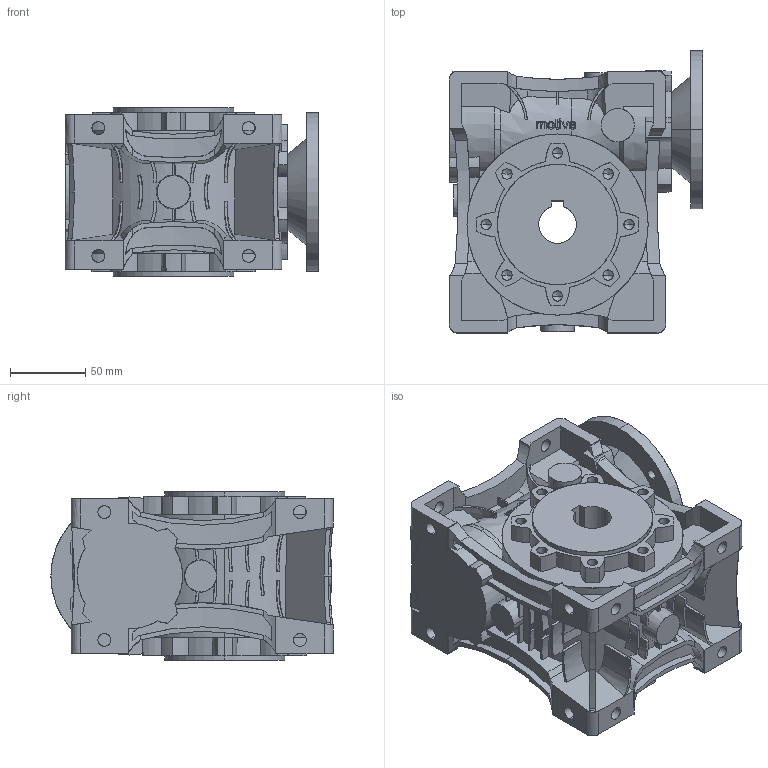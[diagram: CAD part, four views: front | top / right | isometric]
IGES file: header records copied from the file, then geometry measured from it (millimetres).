
Start section: SolidWorks IGES file using analytic representation for surfaces
Global section: file name: E:\Final Worm GBX For Motive\Worm GBX 3D\BOX063\BOX63PAM71B14.igs; native system: SolidWorks 2012; preprocessor: SolidWorks 2012; author: Tahir Momin; date: 130905.112830; units: millimetre
Bounding box: 168.5 x 187.5 x 112 mm (x, y, z)
Surface area: 230389.4 mm2 (no closed solid volume)
Topology: 0 solids, 0 shells, 1313 faces, 10948 edges, 10916 vertices
Faces by surface type: revolution 671, bspline 642
